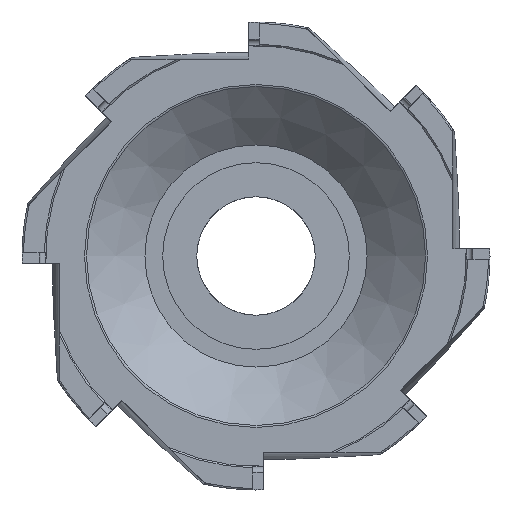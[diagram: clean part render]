
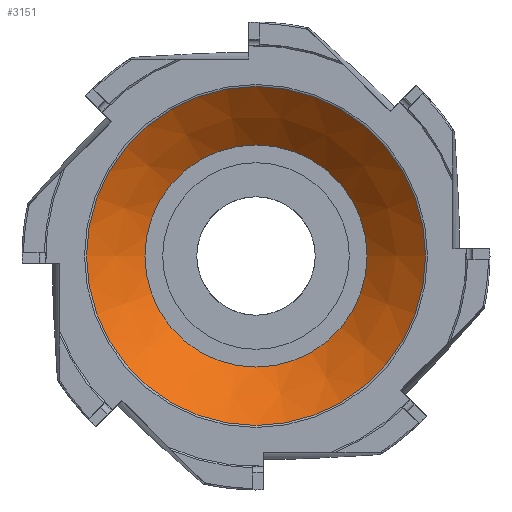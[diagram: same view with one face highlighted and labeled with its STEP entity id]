
A CAD part, front view. The second image highlights one B-rep face of the part: STEP entity #3151.
In plain terms, the highlighted conical face has half-angle 48.013 degrees and reference radius 47.357 mm.
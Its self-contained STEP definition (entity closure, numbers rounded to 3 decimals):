
#62=CONICAL_SURFACE('',#3462,47.357,0.838);
#193=CIRCLE('',#3458,57.215);
#194=CIRCLE('',#3459,57.215);
#195=CIRCLE('',#3460,57.215);
#197=CIRCLE('',#3463,37.5);
#198=CIRCLE('',#3464,37.5);
#514=FACE_OUTER_BOUND('',#679,.T.);
#679=EDGE_LOOP('',(#2898,#2899,#2900,#2901,#2902,#2903,#2904));
#885=LINE('',#6329,#1086);
#1086=VECTOR('',#4249,47.357);
#1445=VERTEX_POINT('',#6320);
#1446=VERTEX_POINT('',#6321);
#1447=VERTEX_POINT('',#6323);
#1448=VERTEX_POINT('',#6328);
#1449=VERTEX_POINT('',#6330);
#1932=EDGE_CURVE('',#1445,#1446,#193,.T.);
#1933=EDGE_CURVE('',#1447,#1445,#194,.T.);
#1934=EDGE_CURVE('',#1446,#1447,#195,.T.);
#1936=EDGE_CURVE('',#1447,#1448,#885,.T.);
#1937=EDGE_CURVE('',#1449,#1448,#197,.T.);
#1938=EDGE_CURVE('',#1448,#1449,#198,.T.);
#2898=ORIENTED_EDGE('',*,*,#1932,.T.);
#2899=ORIENTED_EDGE('',*,*,#1934,.T.);
#2900=ORIENTED_EDGE('',*,*,#1936,.T.);
#2901=ORIENTED_EDGE('',*,*,#1937,.F.);
#2902=ORIENTED_EDGE('',*,*,#1938,.F.);
#2903=ORIENTED_EDGE('',*,*,#1936,.F.);
#2904=ORIENTED_EDGE('',*,*,#1933,.T.);
#3151=ADVANCED_FACE('',(#514),#62,.F.);
#3458=AXIS2_PLACEMENT_3D('',#6322,#4239,#4240);
#3459=AXIS2_PLACEMENT_3D('',#6324,#4241,#4242);
#3460=AXIS2_PLACEMENT_3D('',#6325,#4243,#4244);
#3462=AXIS2_PLACEMENT_3D('',#6327,#4247,#4248);
#3463=AXIS2_PLACEMENT_3D('',#6331,#4250,#4251);
#3464=AXIS2_PLACEMENT_3D('',#6332,#4252,#4253);
#4239=DIRECTION('center_axis',(0.,-1.,0.));
#4240=DIRECTION('ref_axis',(1.,0.,0.));
#4241=DIRECTION('center_axis',(0.,-1.,0.));
#4242=DIRECTION('ref_axis',(1.,0.,0.));
#4243=DIRECTION('center_axis',(0.,-1.,0.));
#4244=DIRECTION('ref_axis',(1.,0.,0.));
#4247=DIRECTION('center_axis',(0.,-1.,0.));
#4248=DIRECTION('ref_axis',(1.,0.,0.));
#4249=DIRECTION('',(0.743,0.669,0.));
#4250=DIRECTION('center_axis',(0.,-1.,0.));
#4251=DIRECTION('ref_axis',(1.,0.,0.));
#4252=DIRECTION('center_axis',(0.,-1.,0.));
#4253=DIRECTION('ref_axis',(1.,0.,0.));
#6320=CARTESIAN_POINT('',(57.215,-24.743,0.));
#6321=CARTESIAN_POINT('',(0.,-24.743,57.215));
#6322=CARTESIAN_POINT('Origin',(0.,-24.743,0.));
#6323=CARTESIAN_POINT('',(-57.215,-24.743,0.));
#6324=CARTESIAN_POINT('Origin',(0.,-24.743,0.));
#6325=CARTESIAN_POINT('Origin',(0.,-24.743,0.));
#6327=CARTESIAN_POINT('Origin',(0.,-15.872,
0.));
#6328=CARTESIAN_POINT('',(-37.5,-7.,0.));
#6329=CARTESIAN_POINT('',(-47.357,-15.872,0.));
#6330=CARTESIAN_POINT('',(37.5,-7.,0.));
#6331=CARTESIAN_POINT('Origin',(0.,-7.,
0.));
#6332=CARTESIAN_POINT('Origin',(0.,-7.,
0.));
